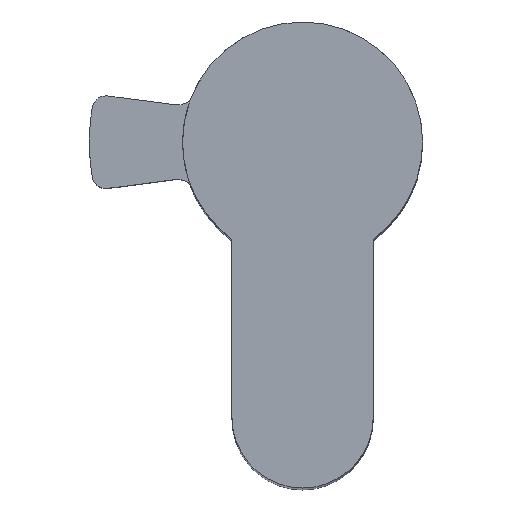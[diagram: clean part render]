
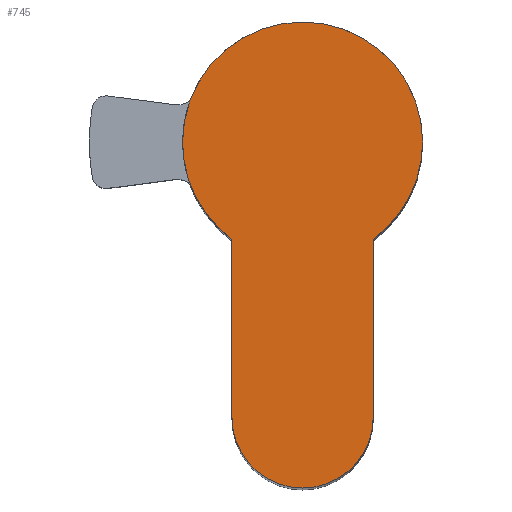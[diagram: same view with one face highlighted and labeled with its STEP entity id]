
A CAD part, top view. The second image highlights one B-rep face of the part: STEP entity #745.
In plain terms, the highlighted planar face has unit normal (0, 0, 1).
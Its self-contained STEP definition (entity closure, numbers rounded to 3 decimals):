
#18 = ORIENTED_EDGE ( 'NONE', *, *, #685, .T. ) ;
#83 = CIRCLE ( 'NONE', #490, 8.5 ) ;
#109 = VERTEX_POINT ( 'NONE', #1341 ) ;
#110 = DIRECTION ( 'NONE',  ( 0., 0., 1. ) ) ;
#122 = EDGE_CURVE ( 'NONE', #1385, #1426, #244, .T. ) ;
#143 = CARTESIAN_POINT ( 'NONE',  ( 5., -19.5, 10. ) ) ;
#195 = DIRECTION ( 'NONE',  ( 1., 0., 0. ) ) ;
#218 = ORIENTED_EDGE ( 'NONE', *, *, #122, .T. ) ;
#237 = DIRECTION ( 'NONE',  ( 1., 0., 0. ) ) ;
#244 = LINE ( 'NONE', #728, #1246 ) ;
#329 = ORIENTED_EDGE ( 'NONE', *, *, #759, .T. ) ;
#351 = ORIENTED_EDGE ( 'NONE', *, *, #899, .T. ) ;
#385 = CARTESIAN_POINT ( 'NONE',  ( 0., 0., 10. ) ) ;
#391 = DIRECTION ( 'NONE',  ( 0., 0., 1. ) ) ;
#397 = DIRECTION ( 'NONE',  ( 0., 1., 0. ) ) ;
#478 = CARTESIAN_POINT ( 'NONE',  ( 0., 0., 10. ) ) ;
#489 = EDGE_CURVE ( 'NONE', #1215, #1385, #1181, .T. ) ;
#490 = AXIS2_PLACEMENT_3D ( 'NONE', #478, #836, #195 ) ;
#532 = CARTESIAN_POINT ( 'NONE',  ( -5., -6.874, 10. ) ) ;
#615 = AXIS2_PLACEMENT_3D ( 'NONE', #1573, #110, #1446 ) ;
#657 = CARTESIAN_POINT ( 'NONE',  ( -5., -19.5, 10. ) ) ;
#685 = EDGE_CURVE ( 'NONE', #1426, #1266, #695, .T. ) ;
#695 = CIRCLE ( 'NONE', #1464, 5. ) ;
#728 = CARTESIAN_POINT ( 'NONE',  ( -5., -6.874, 10. ) ) ;
#731 = LINE ( 'NONE', #977, #1487 ) ;
#745 = ADVANCED_FACE ( 'NONE', ( #1073 ), #1329, .T. ) ;
#759 = EDGE_CURVE ( 'NONE', #109, #1186, #83, .T. ) ;
#763 = AXIS2_PLACEMENT_3D ( 'NONE', #385, #1243, #1372 ) ;
#767 = AXIS2_PLACEMENT_3D ( 'NONE', #1461, #391, #237 ) ;
#791 = DIRECTION ( 'NONE',  ( 0., 0., 1. ) ) ;
#793 = CIRCLE ( 'NONE', #767, 8.5 ) ;
#836 = DIRECTION ( 'NONE',  ( 0., 0., 1. ) ) ;
#899 = EDGE_CURVE ( 'NONE', #1266, #109, #731, .T. ) ;
#901 = EDGE_CURVE ( 'NONE', #1186, #1215, #793, .T. ) ;
#907 = CARTESIAN_POINT ( 'NONE',  ( 0., -19.5, 10. ) ) ;
#977 = CARTESIAN_POINT ( 'NONE',  ( 5., -19.5, 10. ) ) ;
#1032 = ORIENTED_EDGE ( 'NONE', *, *, #489, .T. ) ;
#1073 = FACE_OUTER_BOUND ( 'NONE', #1320, .T. ) ;
#1181 = CIRCLE ( 'NONE', #763, 8.5 ) ;
#1186 = VERTEX_POINT ( 'NONE', #1435 ) ;
#1215 = VERTEX_POINT ( 'NONE', #1583 ) ;
#1243 = DIRECTION ( 'NONE',  ( 0., 0., 1. ) ) ;
#1246 = VECTOR ( 'NONE', #1582, 1000. ) ;
#1266 = VERTEX_POINT ( 'NONE', #143 ) ;
#1320 = EDGE_LOOP ( 'NONE', ( #329, #1529, #1032, #218, #18, #351 ) ) ;
#1329 = PLANE ( 'NONE',  #615 ) ;
#1341 = CARTESIAN_POINT ( 'NONE',  ( 5., -6.874, 10. ) ) ;
#1372 = DIRECTION ( 'NONE',  ( 1., 0., 0. ) ) ;
#1385 = VERTEX_POINT ( 'NONE', #532 ) ;
#1426 = VERTEX_POINT ( 'NONE', #657 ) ;
#1435 = CARTESIAN_POINT ( 'NONE',  ( 8.5, 0., 10. ) ) ;
#1446 = DIRECTION ( 'NONE',  ( 1., 0., 0. ) ) ;
#1461 = CARTESIAN_POINT ( 'NONE',  ( 0., 0., 10. ) ) ;
#1464 = AXIS2_PLACEMENT_3D ( 'NONE', #907, #791, #1533 ) ;
#1487 = VECTOR ( 'NONE', #397, 1000. ) ;
#1529 = ORIENTED_EDGE ( 'NONE', *, *, #901, .T. ) ;
#1533 = DIRECTION ( 'NONE',  ( 1., 0., 0. ) ) ;
#1573 = CARTESIAN_POINT ( 'NONE',  ( 0., 0., 10. ) ) ;
#1582 = DIRECTION ( 'NONE',  ( 0., -1., 0. ) ) ;
#1583 = CARTESIAN_POINT ( 'NONE',  ( -8.5, 0., 10. ) ) ;
